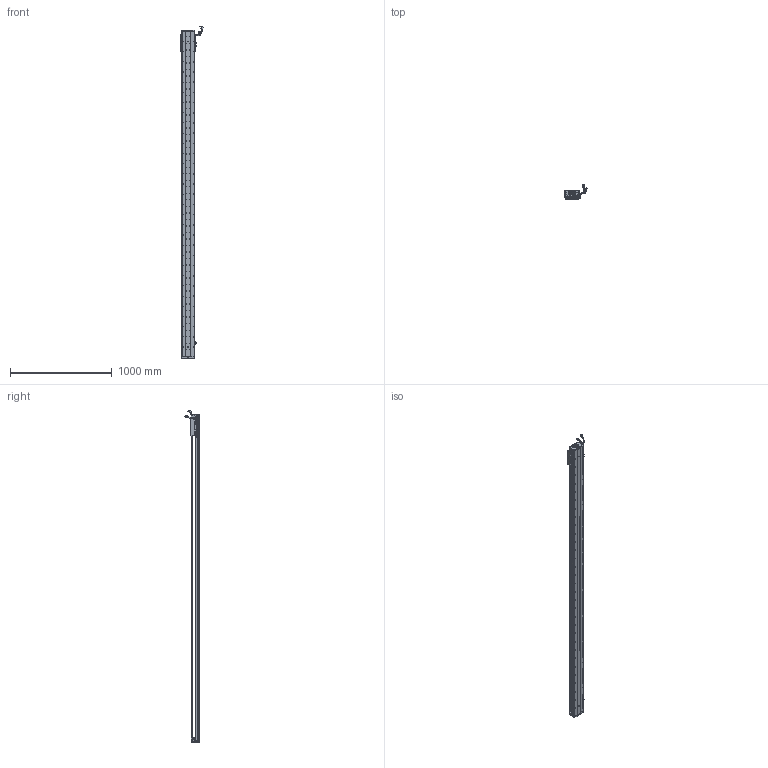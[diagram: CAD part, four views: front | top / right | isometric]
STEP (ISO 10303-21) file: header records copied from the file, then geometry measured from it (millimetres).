
FILE_DESCRIPTION (( 'STEP AP203' ), '1' );
FILE_NAME ('Z2-RY120D-1-L500-B-K.SLDASM_2950.step', '2021-05-17T05:40:51', ( '盈信电脑' ), ( '东莞市道滘镇水果街19号' ), 'SwSTEP 2.0', 'SolidWorks 2016', '' );
FILE_SCHEMA (( 'CONFIG_CONTROL_DESIGN' ));
Length unit declared in the file: millimetre
Products named in the file (37): 140蚥薯蝶輸; PSLH080_PSLF2; SCREW-M1.7; SCALE-Part-1; SCALE; Z2-RY120-500-倰第菁釱_2950; 672嫖萇羲壽假蚾釱; SCREW-M1.6; SCALE-Part-2; COVER-Part-1; Z2-RY120D-1-L500-B-K.SLDASM_2950; COVER; SCREW-M1.6-3; SCREW-M1.7-1; SCREW-M1.6-1; SEAL-Part-1; HARNESS-Part-1; Z2-RY120铝滑块（21款）; HARNESS; 榋妏寠巭燃_暯_M2_2; 120-Z-臏賑輸盄裔(21遴); Z-120詩湍傷裔啣; Z-RY120D詩湍狟揤裔; HOLDER0; SHIELDPLATE; LABEL; HARNESS-Part-2; SCREW-M1.6-2; Z-RY120D詩湍奻揤裔; 覜茼ん672; 080黍杅芛假蚾釱21遴; RY100FB-遵嫖萇覜茼え; LABEL-Part-1; SEAL; Z2-RY120-L500詩湍100mm遵_2950; 140雄赽晤鎢ん堤盄; PBU_SHEET
Assembly tree (43 placements, depth 4):
  Z2-RY120D-1-L500-B-K.SLDASM_2950
    Z2-RY120-500-倰第菁釱_2950
    覜茼ん672  x3
    672嫖萇羲壽假蚾釱  x2
    Z2-RY120铝滑块（21款）
    PSLH080_PSLF2
      SCALE
        SCALE-Part-1
        SCALE-Part-2
      HARNESS
        HARNESS-Part-1
        HARNESS-Part-2
      LABEL
        LABEL-Part-1
      COVER
        COVER-Part-1
      SEAL
        SEAL-Part-1
      榋妏寠巭燃_暯_M2_2
      SHIELDPLATE
      SCREW-M1.7
      SCREW-M1.7-1
      PBU_SHEET
      SCREW-M1.6
      SCREW-M1.6-1
      SCREW-M1.6-2
      SCREW-M1.6-3
      HOLDER0
    080黍杅芛假蚾釱21遴
    120-Z-臏賑輸盄裔(21遴)
    140雄赽晤鎢ん堤盄
    140蚥薯蝶輸  x2
    RY100FB-遵嫖萇覜茼え
    Z-120詩湍傷裔啣  x2
    Z-RY120D詩湍奻揤裔  x2
    Z-RY120D詩湍狟揤裔  x2
    Z2-RY120-L500詩湍100mm遵_2950
Bounding box: 222.83 x 140.94 x 3258.99 mm (x, y, z)
Volume: 7297350.9 mm3; surface area: 2597635.2 mm2
Topology: 38 solids, 38 shells, 3983 faces, 11504 edges, 7258 vertices
Faces by surface type: cylinder 2152, plane 1291, cone 418, torus 69, bspline 53
Entity records: 137293 total; most frequent: CARTESIAN_POINT 43242, ORIENTED_EDGE 19696, DIRECTION 17750, EDGE_CURVE 9848, AXIS2_PLACEMENT_3D 6578, VERTEX_POINT 6378, LINE 4594, VECTOR 4594
